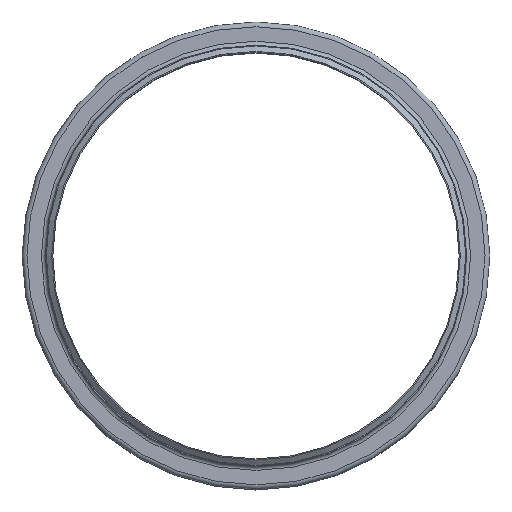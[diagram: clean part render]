
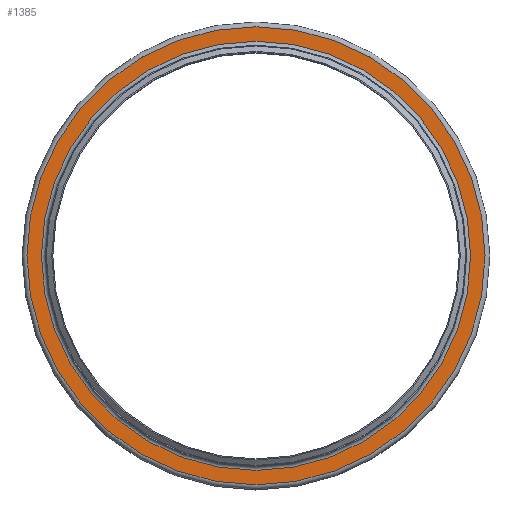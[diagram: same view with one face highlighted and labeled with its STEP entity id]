
A CAD part, top view. The second image highlights one B-rep face of the part: STEP entity #1385.
In plain terms, the highlighted planar face has unit normal (0, 0, 1).
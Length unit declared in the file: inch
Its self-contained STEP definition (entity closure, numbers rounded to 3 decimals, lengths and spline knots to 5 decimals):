
#155=FACE_BOUND('',#416,.T.);
#256=FACE_OUTER_BOUND('',#415,.T.);
#415=EDGE_LOOP('',(#1168));
#416=EDGE_LOOP('',(#1169));
#584=CIRCLE('',#1684,12.274);
#585=CIRCLE('',#1686,13.101);
#703=VERTEX_POINT('',#2631);
#704=VERTEX_POINT('',#2635);
#862=EDGE_CURVE('',#703,#703,#584,.T.);
#863=EDGE_CURVE('',#704,#704,#585,.T.);
#1168=ORIENTED_EDGE('',*,*,#863,.F.);
#1169=ORIENTED_EDGE('',*,*,#862,.T.);
#1284=PLANE('',#1685);
#1385=ADVANCED_FACE('',(#256,#155),#1284,.T.);
#1684=AXIS2_PLACEMENT_3D('',#2633,#2197,#2198);
#1685=AXIS2_PLACEMENT_3D('',#2634,#2199,#2200);
#1686=AXIS2_PLACEMENT_3D('',#2636,#2201,#2202);
#2197=DIRECTION('center_axis',(0.,0.,-1.));
#2198=DIRECTION('ref_axis',(1.,0.,0.));
#2199=DIRECTION('center_axis',(0.,0.,1.));
#2200=DIRECTION('ref_axis',(1.,0.,0.));
#2201=DIRECTION('center_axis',(0.,0.,-1.));
#2202=DIRECTION('ref_axis',(1.,0.,0.));
#2631=CARTESIAN_POINT('',(12.274,0.,-0.226));
#2633=CARTESIAN_POINT('Origin',(0.,0.,-0.226));
#2634=CARTESIAN_POINT('Origin',(0.,13.101,-0.226));
#2635=CARTESIAN_POINT('',(13.101,0.,-0.226));
#2636=CARTESIAN_POINT('Origin',(0.,0.,-0.226));
